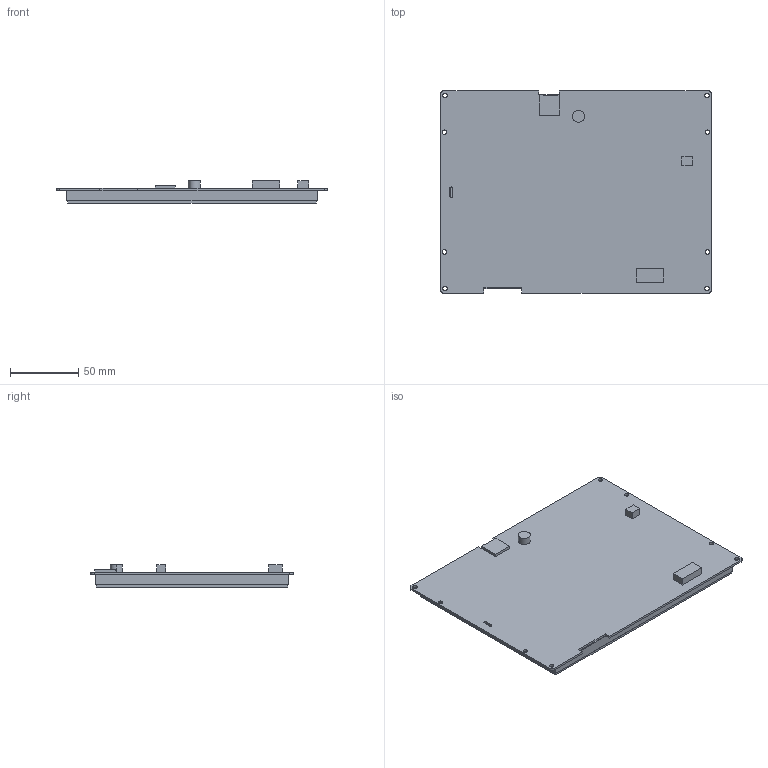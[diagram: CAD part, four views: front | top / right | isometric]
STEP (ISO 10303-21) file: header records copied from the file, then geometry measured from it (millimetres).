
FILE_DESCRIPTION((''),'2;1');
FILE_NAME('DMG80600S080_03W','2022-07-29T',('Administrator'),(''),'PRO/ENGINEER BY PARAMETRIC TECHNOLOGY CORPORATION, 2008380','PRO/ENGINEER BY PARAMETRIC TECHNOLOGY CORPORATION, 2008380','');
FILE_SCHEMA(('CONFIG_CONTROL_DESIGN'));
Products named in the file (1): DMG80600S080_03W
Bounding box: 199.39 x 148.84 x 16.38 mm (x, y, z)
Volume: 282913.9 mm3; surface area: 108736.8 mm2
Topology: 1 solids, 2 shells, 76 faces, 17623 edges, 30615 vertices
Faces by surface type: plane 52, cylinder 24
Entity records: 93931 total; most frequent: DIRECTION 22190, CARTESIAN_POINT 17832, TRIMMED_CURVE 17423, VECTOR 13210, LINE 13210, AXIS2_PLACEMENT_3D 4490, CIRCLE 4413, ORIENTED_EDGE 400
